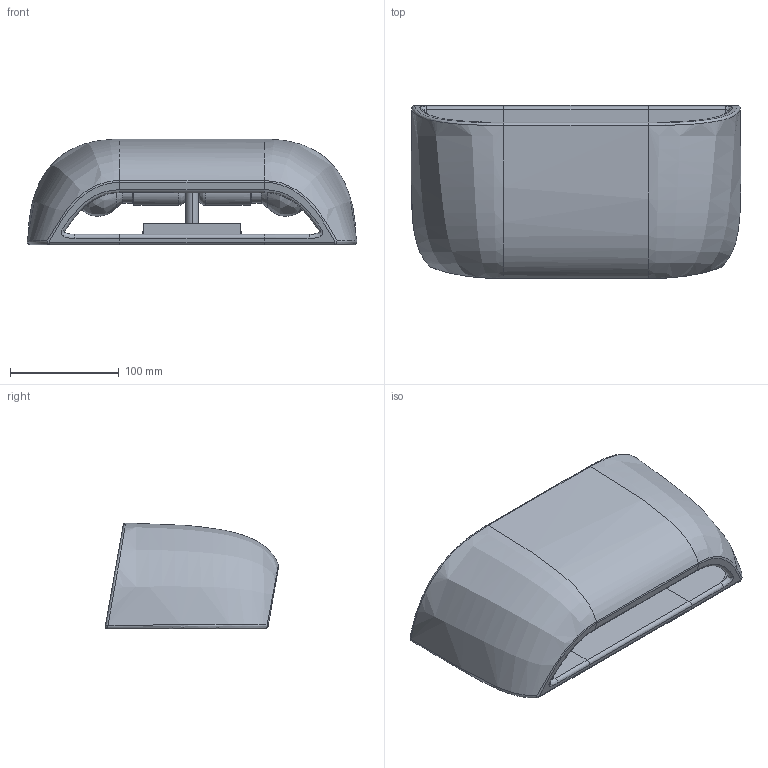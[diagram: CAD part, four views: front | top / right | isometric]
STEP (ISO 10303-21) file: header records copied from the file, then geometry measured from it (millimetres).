
FILE_DESCRIPTION(/* description */ (''),/* implementation_level */ '2;1');
FILE_NAME(/* name */ '63430.step',/* time_stamp */ '2024-09-24T09:41:30+02:00',/* author */ ('RenataManzini'),/* organization */ (''),/* preprocessor_version */ 'ST-DEVELOPER v20',/* originating_system */ 'AutoCAD Mechanical',/* authorisation */ '');
FILE_SCHEMA (('AUTOMOTIVE_DESIGN { 1 0 10303 214 3 1 1 }'));
Length unit declared in the file: millimetre
Products named in the file (2): Product; kappu_300 - Kappu-462241-_3D_
Assembly tree (1 placements, depth 2):
  Product
    kappu_300 - Kappu-462241-_3D_
Bounding box: 302.9 x 159.13 x 97.26 mm (x, y, z)
Volume: 1114922.1 mm3; surface area: 253238.4 mm2
Topology: 10 solids, 10 shells, 173 faces, 390 edges, 232 vertices
Faces by surface type: plane 79, cylinder 49, bspline 37, cone 8
Entity records: 10453 total; most frequent: CARTESIAN_POINT 6818, ORIENTED_EDGE 766, DIRECTION 640, EDGE_CURVE 383, VERTEX_POINT 227, AXIS2_PLACEMENT_3D 218, LINE 204, VECTOR 204
